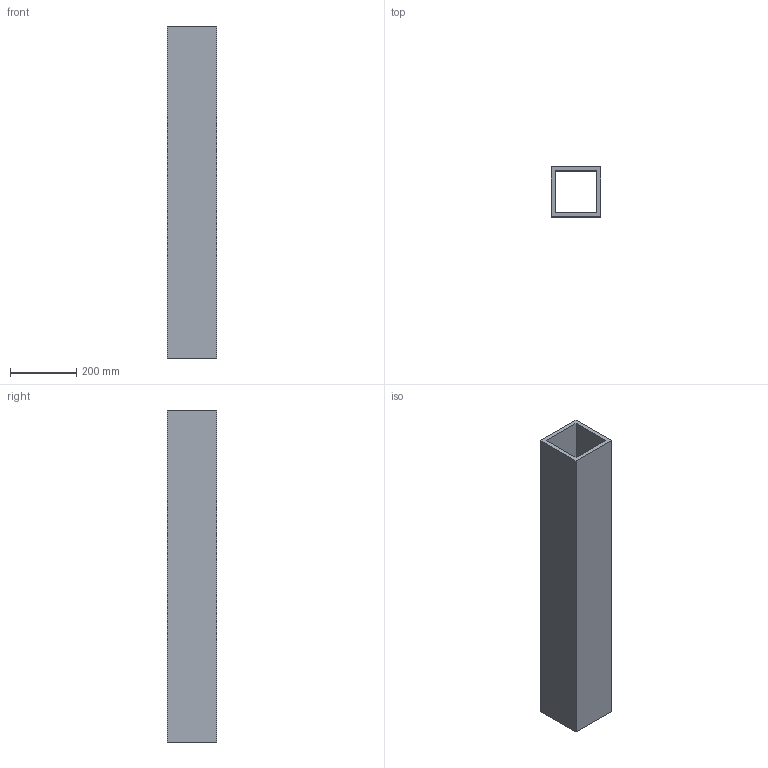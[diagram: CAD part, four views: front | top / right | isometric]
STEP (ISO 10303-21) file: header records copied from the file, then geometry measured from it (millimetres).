
FILE_DESCRIPTION(('Open CASCADE Model'),'2;1');
FILE_NAME('Open CASCADE Shape Model','2026-10-15T15:10:04',('Author'),( 'Open CASCADE'),'Open CASCADE STEP processor 8.0','Open CASCADE 8.0' ,'Unknown');
FILE_SCHEMA(('AUTOMOTIVE_DESIGN { 1 0 10303 214 1 1 1 1 }'));
Length unit declared in the file: millimetre
Products named in the file (1): SHS150x150x12_L1000000_P05 34
Bounding box: 150 x 150 x 1000 mm (x, y, z)
Volume: 6624000 mm3; surface area: 1117248 mm2
Topology: 1 solids, 1 shells, 10 faces, 24 edges, 16 vertices
Faces by surface type: plane 10
Entity records: 614 total; most frequent: CARTESIAN_POINT 99, DIRECTION 94, LINE 72, VECTOR 72, ORIENTED_EDGE 48, PCURVE 48, DEFINITIONAL_REPRESENTATION 48, EDGE_CURVE 24
